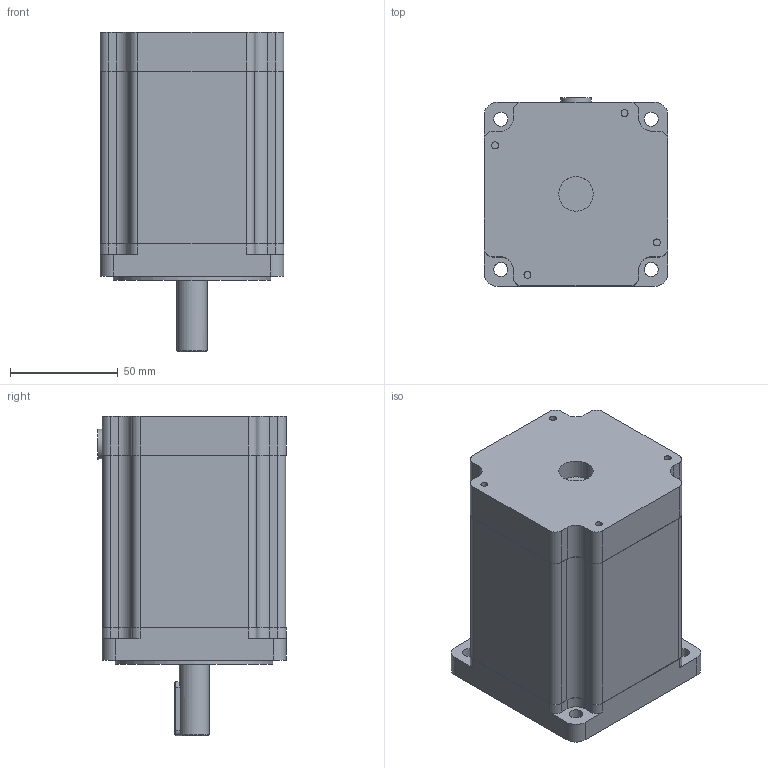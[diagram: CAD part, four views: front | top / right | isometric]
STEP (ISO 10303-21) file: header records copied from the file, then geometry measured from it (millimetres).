
FILE_DESCRIPTION(('STEP AP203'), '1');
FILE_NAME('Äâèãàòåëü øàãîâûé PL86H113-D14K', '', ('UNSPECIFIED'), ('UNSPECIFIED'), 'ASCON STEP Converter 1.6', 'ASCON Math Kernel', '');
FILE_SCHEMA(('CONFIG_CONTROL_DESIGN'));
Length unit declared in the file: millimetre
Bounding box: 85.2 x 87.2 x 148 mm (x, y, z)
Volume: 750537.1 mm3; surface area: 54491.3 mm2
Topology: 2 solids, 2 shells, 673 faces, 1852 edges, 1232 vertices
Faces by surface type: plane 309, cylinder 285, extrusion 74, cone 5
Full cylindrical faces by diameter (mm): 3.242 x4, 4.134 x1, 5 x1, 6.5 x4, 14 x2, 16 x1, 73 x1
Entity records: 27306 total; most frequent: CARTESIAN_POINT 4493, ORIENTED_EDGE 3670, DIRECTION 3534, EDGE_CURVE 1835, VERTEX_POINT 1231, VECTOR 1182, AXIS2_PLACEMENT_3D 1176, LINE 1108
